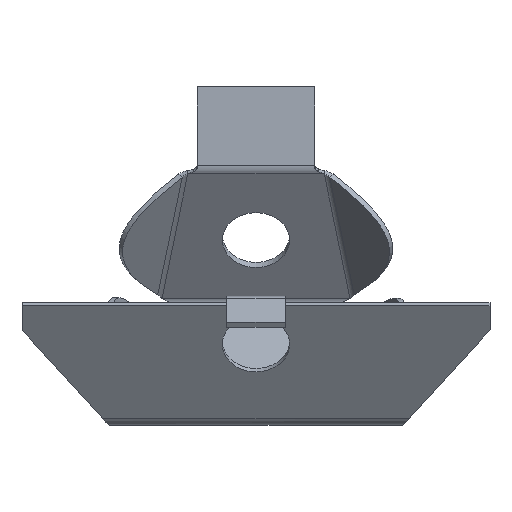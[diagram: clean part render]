
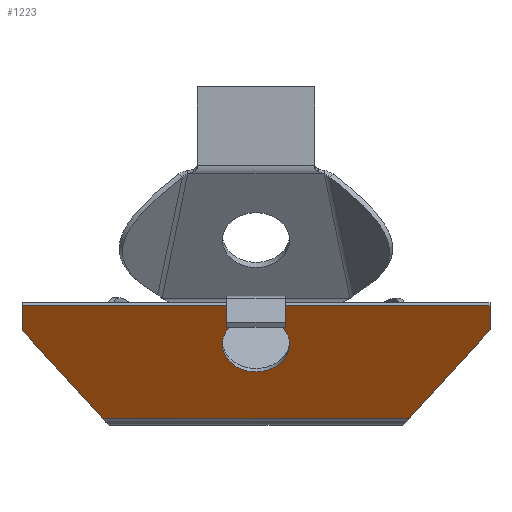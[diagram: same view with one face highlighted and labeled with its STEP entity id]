
A CAD part, left-side view. The second image highlights one B-rep face of the part: STEP entity #1223.
In plain terms, the highlighted planar face has unit normal (-0.824, 0, -0.566).
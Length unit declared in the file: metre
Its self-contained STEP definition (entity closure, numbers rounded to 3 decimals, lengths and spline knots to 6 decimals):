
#137=ELLIPSE('',#1317,0.011502,0.0115);
#143=ORIENTED_EDGE('',*,*,#513,.T.);
#144=ORIENTED_EDGE('',*,*,#514,.F.);
#145=ORIENTED_EDGE('',*,*,#515,.F.);
#146=ORIENTED_EDGE('',*,*,#516,.F.);
#147=ORIENTED_EDGE('',*,*,#517,.T.);
#148=ORIENTED_EDGE('',*,*,#518,.F.);
#149=ORIENTED_EDGE('',*,*,#519,.F.);
#150=ORIENTED_EDGE('',*,*,#510,.F.);
#151=ORIENTED_EDGE('',*,*,#520,.F.);
#510=EDGE_CURVE('',#694,#696,#806,.T.);
#513=EDGE_CURVE('',#698,#698,#137,.T.);
#514=EDGE_CURVE('',#699,#700,#809,.T.);
#515=EDGE_CURVE('',#701,#699,#810,.T.);
#516=EDGE_CURVE('',#702,#701,#811,.T.);
#517=EDGE_CURVE('',#702,#703,#812,.T.);
#518=EDGE_CURVE('',#704,#703,#813,.T.);
#519=EDGE_CURVE('',#696,#704,#814,.T.);
#520=EDGE_CURVE('',#700,#694,#815,.T.);
#694=VERTEX_POINT('',#1633);
#696=VERTEX_POINT('',#1636);
#698=VERTEX_POINT('',#1642);
#699=VERTEX_POINT('',#1644);
#700=VERTEX_POINT('',#1645);
#701=VERTEX_POINT('',#1647);
#702=VERTEX_POINT('',#1649);
#703=VERTEX_POINT('',#1651);
#704=VERTEX_POINT('',#1653);
#806=LINE('',#1635,#909);
#809=LINE('',#1643,#912);
#810=LINE('',#1646,#913);
#811=LINE('',#1648,#914);
#812=LINE('',#1650,#915);
#813=LINE('',#1652,#916);
#814=LINE('',#1654,#917);
#815=LINE('',#1655,#918);
#909=VECTOR('',#1390,1.);
#912=VECTOR('',#1397,1.);
#913=VECTOR('',#1398,1.);
#914=VECTOR('',#1399,1.);
#915=VECTOR('',#1400,1.);
#916=VECTOR('',#1401,1.);
#917=VECTOR('',#1402,1.);
#918=VECTOR('',#1403,1.);
#1012=EDGE_LOOP('',(#143));
#1013=EDGE_LOOP('',(#144,#145,#146,#147,#148,#149,#150,#151));
#1100=FACE_BOUND('',#1012,.T.);
#1101=FACE_BOUND('',#1013,.T.);
#1188=PLANE('',#1316);
#1223=ADVANCED_FACE('',(#1100,#1101),#1188,.F.);
#1316=AXIS2_PLACEMENT_3D('',#1640,#1393,#1394);
#1317=AXIS2_PLACEMENT_3D('',#1641,#1395,#1396);
#1390=DIRECTION('',(0.,-1.,0.));
#1393=DIRECTION('',(0.824,0.,0.566));
#1394=DIRECTION('',(0.,1.,0.));
#1395=DIRECTION('',(0.824,0.,0.566));
#1396=DIRECTION('',(0.566,0.,-0.824));
#1397=DIRECTION('',(0.,-1.,0.));
#1398=DIRECTION('',(-0.566,0.,0.824));
#1399=DIRECTION('',(-0.453,0.6,0.659));
#1400=DIRECTION('',(0.,-1.,0.));
#1401=DIRECTION('',(0.453,0.6,-0.659));
#1402=DIRECTION('',(0.566,0.,-0.824));
#1403=DIRECTION('',(0.,-1.,0.));
#1633=CARTESIAN_POINT('',(-0.021634,-0.01,-0.001298));
#1635=CARTESIAN_POINT('',(-0.021634,-0.01,-0.001298));
#1636=CARTESIAN_POINT('',(-0.021634,-0.08,-0.001298));
#1640=CARTESIAN_POINT('',(0.032664,-0.060648,-0.080301));
#1641=CARTESIAN_POINT('',(-0.012624,0.,-0.014407));
#1642=CARTESIAN_POINT('',(-0.006109,0.,-0.023886));
#1643=CARTESIAN_POINT('',(-0.021634,-0.01,-0.001298));
#1644=CARTESIAN_POINT('',(-0.021634,0.08,-0.001298));
#1645=CARTESIAN_POINT('',(-0.021634,0.01,-0.001298));
#1646=CARTESIAN_POINT('',(-0.01597,0.08,-0.009539));
#1647=CARTESIAN_POINT('',(-0.01597,0.08,-0.009539));
#1648=CARTESIAN_POINT('',(0.006686,0.05,-0.042504));
#1649=CARTESIAN_POINT('',(0.004914,0.052348,-0.039925));
#1650=CARTESIAN_POINT('',(0.004914,-0.05,-0.039925));
#1651=CARTESIAN_POINT('',(0.004914,-0.052348,-0.039925));
#1652=CARTESIAN_POINT('',(-0.01597,-0.08,-0.009539));
#1653=CARTESIAN_POINT('',(-0.01597,-0.08,-0.009539));
#1654=CARTESIAN_POINT('',(-0.021634,-0.08,-0.001298));
#1655=CARTESIAN_POINT('',(-0.021634,0.01,-0.001298));
